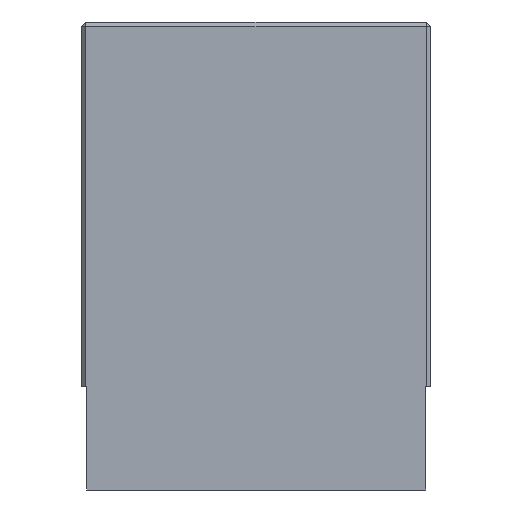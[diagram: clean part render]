
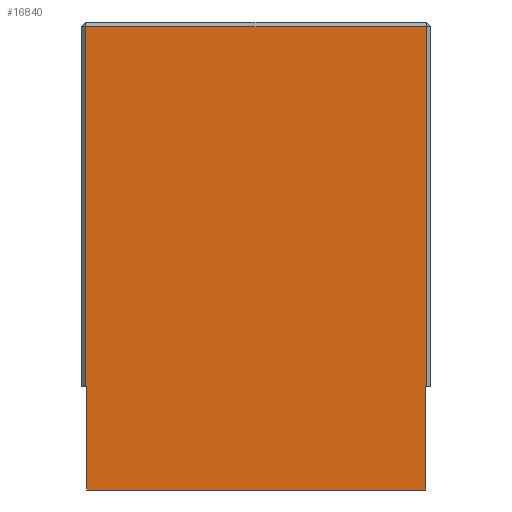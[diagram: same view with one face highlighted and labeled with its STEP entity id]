
A CAD part, front view. The second image highlights one B-rep face of the part: STEP entity #16840.
In plain terms, the highlighted planar face has unit normal (0, -1, 0).
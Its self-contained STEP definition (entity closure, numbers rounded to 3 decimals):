
#2164=DIRECTION('',(1.,0.,0.));
#2165=VECTOR('',#2164,14.95);
#2166=CARTESIAN_POINT('',(-7.475,-12.65,-20.65));
#2167=LINE('',#2166,#2165);
#2184=DIRECTION('',(0.,0.,-1.));
#2185=VECTOR('',#2184,4.55);
#2186=CARTESIAN_POINT('',(-7.475,-12.65,-16.1));
#2187=LINE('',#2186,#2185);
#2204=DIRECTION('',(-1.,0.,0.));
#2205=VECTOR('',#2204,0.05);
#2206=CARTESIAN_POINT('',(-7.475,-12.65,-16.1));
#2207=LINE('',#2206,#2205);
#2208=DIRECTION('',(0.,0.,-1.));
#2209=VECTOR('',#2208,4.55);
#2210=CARTESIAN_POINT('',(7.475,-12.65,-16.1));
#2211=LINE('',#2210,#2209);
#2220=DIRECTION('',(1.,0.,0.));
#2221=VECTOR('',#2220,0.04);
#2222=CARTESIAN_POINT('',(7.475,-12.65,-16.1));
#2223=LINE('',#2222,#2221);
#2240=DIRECTION('',(0.,0.,-1.));
#2241=VECTOR('',#2240,15.9);
#2242=CARTESIAN_POINT('',(7.515,-12.65,-0.2));
#2243=LINE('',#2242,#2241);
#2260=DIRECTION('',(1.,0.,0.));
#2261=VECTOR('',#2260,15.04);
#2262=CARTESIAN_POINT('',(-7.525,-12.65,-0.2));
#2263=LINE('',#2262,#2261);
#2316=DIRECTION('',(0.,0.,-1.));
#2317=VECTOR('',#2316,15.9);
#2318=CARTESIAN_POINT('',(-7.525,-12.65,-0.2));
#2319=LINE('',#2318,#2317);
#11161=CARTESIAN_POINT('',(-7.475,-12.65,-16.1));
#11162=CARTESIAN_POINT('',(-7.525,-12.65,-16.1));
#11163=VERTEX_POINT('',#11161);
#11164=VERTEX_POINT('',#11162);
#11167=CARTESIAN_POINT('',(7.475,-12.65,-16.1));
#11168=CARTESIAN_POINT('',(7.475,-12.65,-20.65));
#11169=VERTEX_POINT('',#11167);
#11170=VERTEX_POINT('',#11168);
#11171=CARTESIAN_POINT('',(7.515,-12.65,-16.1));
#11172=VERTEX_POINT('',#11171);
#11173=CARTESIAN_POINT('',(7.515,-12.65,-0.2));
#11174=VERTEX_POINT('',#11173);
#11175=CARTESIAN_POINT('',(-7.525,-12.65,-0.2));
#11176=VERTEX_POINT('',#11175);
#11177=CARTESIAN_POINT('',(-7.475,-12.65,-20.65));
#11178=VERTEX_POINT('',#11177);
#16819=CARTESIAN_POINT('',(-0.005,-12.65,-10.425));
#16820=DIRECTION('',(0.,1.,0.));
#16821=DIRECTION('',(0.,0.,-1.));
#16822=AXIS2_PLACEMENT_3D('',#16819,#16820,#16821);
#16823=PLANE('',#16822);
#16825=ORIENTED_EDGE('',*,*,#16824,.T.);
#16826=ORIENTED_EDGE('',*,*,#16777,.F.);
#16827=ORIENTED_EDGE('',*,*,#16808,.F.);
#16829=ORIENTED_EDGE('',*,*,#16828,.T.);
#16831=ORIENTED_EDGE('',*,*,#16830,.F.);
#16833=ORIENTED_EDGE('',*,*,#16832,.T.);
#16835=ORIENTED_EDGE('',*,*,#16834,.T.);
#16837=ORIENTED_EDGE('',*,*,#16836,.F.);
#16838=EDGE_LOOP('',(#16825,#16826,#16827,#16829,#16831,#16833,#16835,#16837));
#16839=FACE_OUTER_BOUND('',#16838,.F.);
#16840=ADVANCED_FACE('',(#16839),#16823,.F.);
#16777=EDGE_CURVE('',#11178,#11170,#2167,.T.);
#16808=EDGE_CURVE('',#11163,#11178,#2187,.T.);
#16824=EDGE_CURVE('',#11169,#11170,#2211,.T.);
#16828=EDGE_CURVE('',#11163,#11164,#2207,.T.);
#16830=EDGE_CURVE('',#11176,#11164,#2319,.T.);
#16832=EDGE_CURVE('',#11176,#11174,#2263,.T.);
#16834=EDGE_CURVE('',#11174,#11172,#2243,.T.);
#16836=EDGE_CURVE('',#11169,#11172,#2223,.T.);
